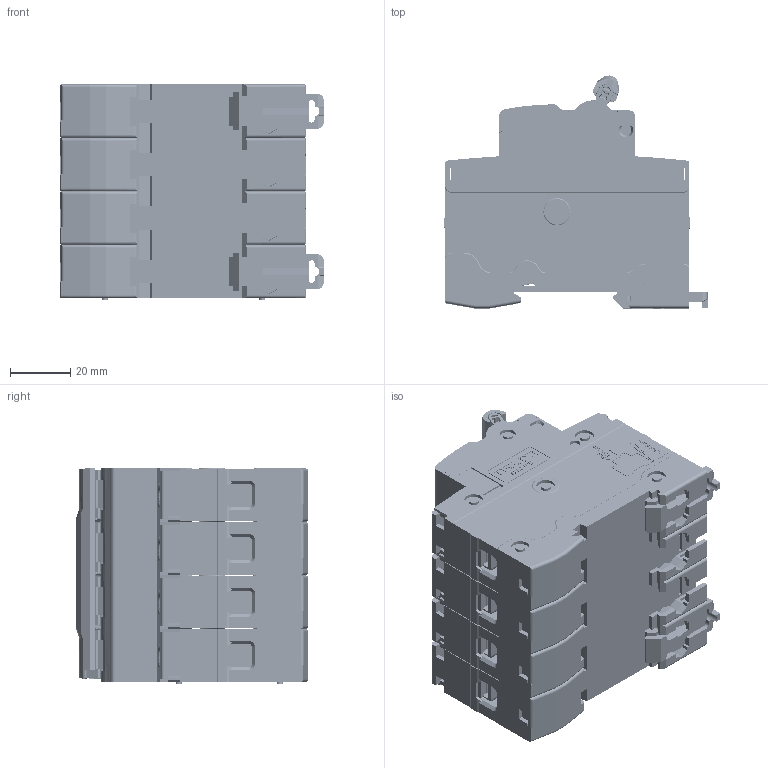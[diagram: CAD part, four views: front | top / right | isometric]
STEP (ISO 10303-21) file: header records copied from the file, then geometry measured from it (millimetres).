
FILE_DESCRIPTION((''),'2;1');
FILE_NAME('1255002100_ASM_SW0002','2019-10-22T',('gang.wang'),(''),'PRO/ENGINEER BY PARAMETRIC TECHNOLOGY CORPORATION, 2015440','PRO/ENGINEER BY PARAMETRIC TECHNOLOGY CORPORATION, 2015440','');
FILE_SCHEMA(('CONFIG_CONTROL_DESIGN'));
Products named in the file (1): 1255002100_ASM_SW0002
Bounding box: 87.18 x 77.08 x 71.55 mm (x, y, z)
Volume: 289981.3 mm3; surface area: 87705 mm2
Topology: 1 solids, 16 shells, 12200 faces, 33749 edges, 21758 vertices
Faces by surface type: plane 6797, cylinder 2295, extrusion 2044, cone 372, torus 364, sphere 192, bspline 136
Entity records: 413119 total; most frequent: CARTESIAN_POINT 109789, ORIENTED_EDGE 67114, DIRECTION 55232, EDGE_CURVE 33557, VECTOR 25040, LINE 22996, VERTEX_POINT 21758, AXIS2_PLACEMENT_3D 15096
